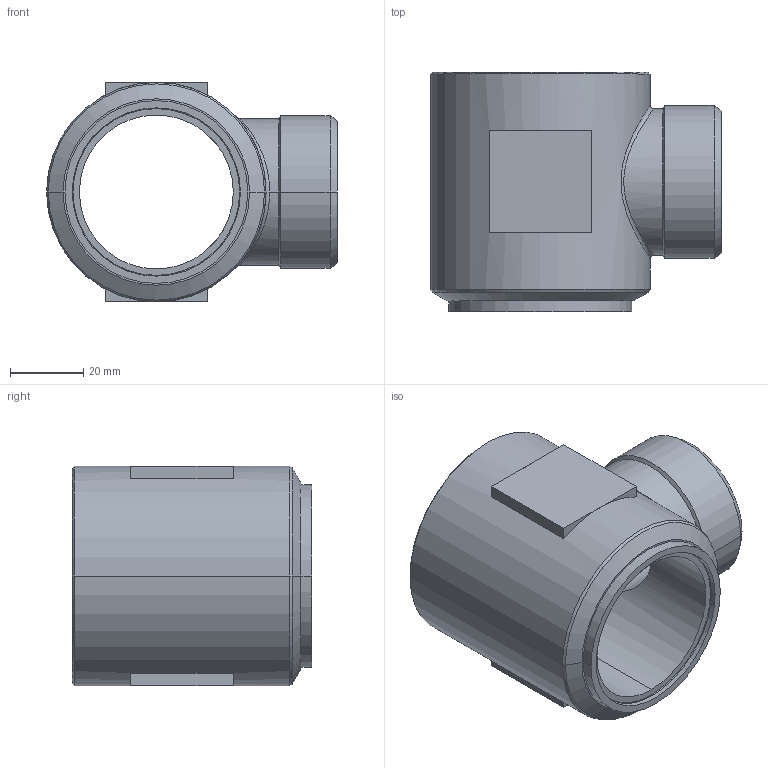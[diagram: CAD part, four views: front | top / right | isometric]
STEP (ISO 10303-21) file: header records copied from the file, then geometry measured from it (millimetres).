
FILE_DESCRIPTION((''),'2;1');
FILE_NAME('101322.stp','2007-10-30T15:39:05',(''),(''),'AutoCAD STEP 2000i','AutoCAD 2000i',', , ');
FILE_SCHEMA(('CONFIG_CONTROL_DESIGN'));
Length unit declared in the file: millimetre
Products named in the file (2): 101322.0; 1094#0
Assembly tree (1 placements, depth 2):
  101322.0
    1094#0
Bounding box: 79.5 x 65.5 x 60 mm (x, y, z)
Volume: 102192.3 mm3; surface area: 28212.5 mm2
Topology: 1 solids, 1 shells, 55 faces, 127 edges, 79 vertices
Faces by surface type: plane 20, cylinder 16, cone 14, bspline 5
Entity records: 2104 total; most frequent: CARTESIAN_POINT 719, DIRECTION 285, ORIENTED_EDGE 254, EDGE_CURVE 127, AXIS2_PLACEMENT_3D 115, VERTEX_POINT 79, EDGE_LOOP 64, CIRCLE 63
